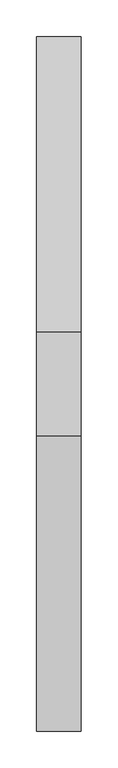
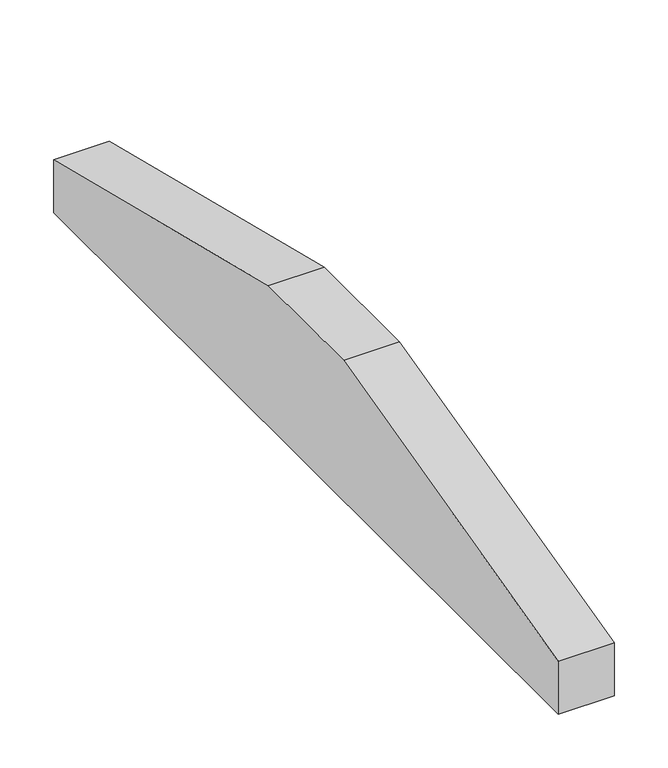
"""IFC4 building model written with IfcOpenShell, lengths in millimetres: proxy geometry, Modelos genéricos 170 : Modelos genéricos 144."""

from ifc_helpers import new_model, si_unit, frame, origin, place, context, project, spatial, polyline, outline, extrude, source, transform, mapped, element, save


def generic_models_a9074549(model_context):
    return source(origin(), model_context, "Body", "SweptSolid", [
        extrude(outline(polyline([(2018.6238165, 4209.7515316), (2418.6238165, 4110.0203305), (2418.6238165, 4049.7515316), (1478.6238165, 4049.7515316), (1478.6238165, 4110.0203305), (1878.6238165, 4209.7515316), (2018.6238165, 4209.7515316)])), frame((66283.4472467, 0.0, 0.0), z_axis=(1.0, 0.0, 0.0), x_axis=(0.0, 1.0, 0.0)), (0.0, 0.0, 1.0), 60.0),
    ])


if __name__ == "__main__":
    model = new_model("IFC4")
    model_context = context("Model", 3, world=origin())
    ifc_project = project(units=[si_unit("LENGTHUNIT", "METRE", prefix="MILLI")], contexts=[model_context])
    site = spatial("IfcSite", under=ifc_project)
    building = spatial("IfcBuilding", under=site)
    placement = place(None, origin())
    generic_models_shape = generic_models_a9074549(model_context)
    element("IfcBuildingElementProxy", 1, Name="Modelos genéricos 170 : Modelos genéricos 144", ObjectType="Modelos genéricos 170 : Modelos genéricos 144", at=placement, inside=building, context=model_context, shape_type="MappedRepresentation", body=[
        mapped(generic_models_shape, transform((0.0, 0.0, 0.0), x_axis=(1.0, 0.0, 0.0), y_axis=(0.0, 1.0, 0.0), z_axis=(0.0, 0.0, 1.0))),
    ])
    save(model, "model.ifc")
